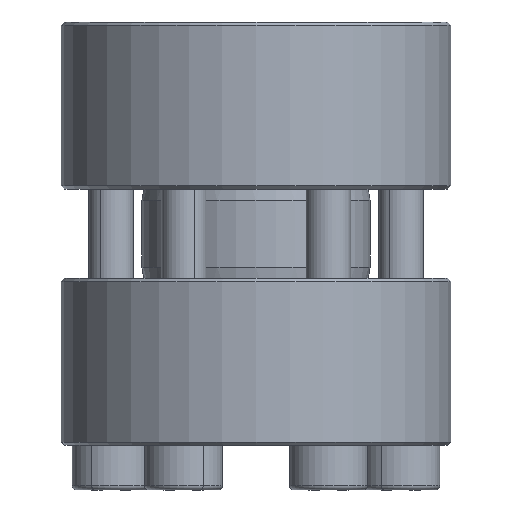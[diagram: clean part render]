
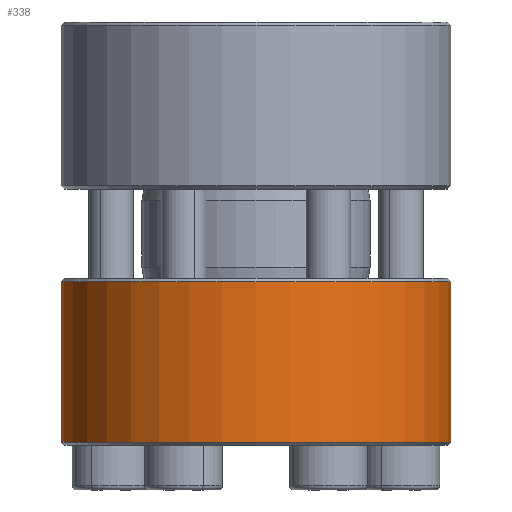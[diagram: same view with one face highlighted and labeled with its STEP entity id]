
A CAD part, front view. The second image highlights one B-rep face of the part: STEP entity #338.
In plain terms, the highlighted cylindrical face has radius 17.5 mm (diameter 35 mm), a partial arc.
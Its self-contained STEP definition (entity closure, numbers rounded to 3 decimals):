
#120 = LINE ( 'NONE', #2385, #7911 ) ;
#154 = DIRECTION ( 'NONE',  ( 0., 0., -1. ) ) ;
#308 = VERTEX_POINT ( 'NONE', #4407 ) ;
#338 = ADVANCED_FACE ( 'NONE', ( #687 ), #5756, .T. ) ;
#385 = DIRECTION ( 'NONE',  ( 0., 0., -1. ) ) ;
#402 = CARTESIAN_POINT ( 'NONE',  ( 0., 0., 0.3 ) ) ;
#687 = FACE_OUTER_BOUND ( 'NONE', #5329, .T. ) ;
#1155 = LINE ( 'NONE', #3841, #6946 ) ;
#1174 = DIRECTION ( 'NONE',  ( 1., 0., 0. ) ) ;
#1802 = VERTEX_POINT ( 'NONE', #8326 ) ;
#1849 = EDGE_CURVE ( 'NONE', #308, #8109, #120, .T. ) ;
#2385 = CARTESIAN_POINT ( 'NONE',  ( -17.5, 0., 15. ) ) ;
#2583 = EDGE_CURVE ( 'NONE', #8109, #1802, #3035, .T. ) ;
#2920 = ORIENTED_EDGE ( 'NONE', *, *, #8516, .T. ) ;
#2981 = DIRECTION ( 'NONE',  ( 0., 0., -1. ) ) ;
#3035 = CIRCLE ( 'NONE', #5864, 17.5 ) ;
#3073 = CIRCLE ( 'NONE', #8694, 17.5 ) ;
#3690 = ORIENTED_EDGE ( 'NONE', *, *, #1849, .T. ) ;
#3719 = CARTESIAN_POINT ( 'NONE',  ( -17.5, 0., 0.3 ) ) ;
#3841 = CARTESIAN_POINT ( 'NONE',  ( 17.5, 0., 15. ) ) ;
#4407 = CARTESIAN_POINT ( 'NONE',  ( -17.5, 0., 14.7 ) ) ;
#4492 = CARTESIAN_POINT ( 'NONE',  ( 0., 0., 15. ) ) ;
#4812 = CARTESIAN_POINT ( 'NONE',  ( 17.5, 0., 14.7 ) ) ;
#4915 = CARTESIAN_POINT ( 'NONE',  ( 0., 0., 14.7 ) ) ;
#5204 = ORIENTED_EDGE ( 'NONE', *, *, #8281, .F. ) ;
#5329 = EDGE_LOOP ( 'NONE', ( #5204, #2920, #3690, #9285 ) ) ;
#5675 = DIRECTION ( 'NONE',  ( 1., 0., 0. ) ) ;
#5692 = DIRECTION ( 'NONE',  ( 0., 0., 1. ) ) ;
#5756 = CYLINDRICAL_SURFACE ( 'NONE', #8234, 17.5 ) ;
#5864 = AXIS2_PLACEMENT_3D ( 'NONE', #402, #5692, #1174 ) ;
#6946 = VECTOR ( 'NONE', #7620, 1000. ) ;
#7528 = DIRECTION ( 'NONE',  ( -1., 0., 0. ) ) ;
#7620 = DIRECTION ( 'NONE',  ( 0., 0., -1. ) ) ;
#7911 = VECTOR ( 'NONE', #154, 1000. ) ;
#8109 = VERTEX_POINT ( 'NONE', #3719 ) ;
#8234 = AXIS2_PLACEMENT_3D ( 'NONE', #4492, #2981, #7528 ) ;
#8281 = EDGE_CURVE ( 'NONE', #8484, #1802, #1155, .T. ) ;
#8326 = CARTESIAN_POINT ( 'NONE',  ( 17.5, 0., 0.3 ) ) ;
#8484 = VERTEX_POINT ( 'NONE', #4812 ) ;
#8516 = EDGE_CURVE ( 'NONE', #8484, #308, #3073, .T. ) ;
#8694 = AXIS2_PLACEMENT_3D ( 'NONE', #4915, #385, #5675 ) ;
#9285 = ORIENTED_EDGE ( 'NONE', *, *, #2583, .T. ) ;
